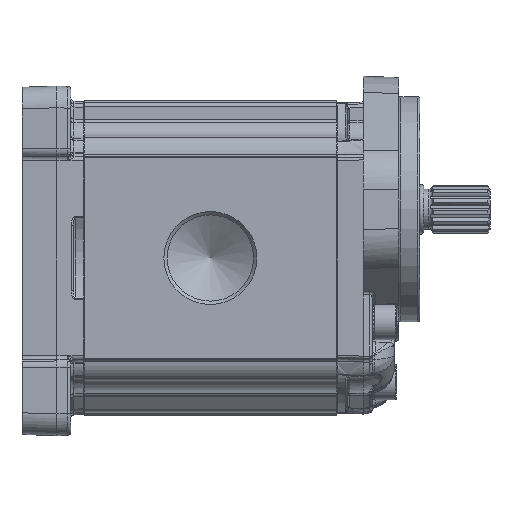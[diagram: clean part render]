
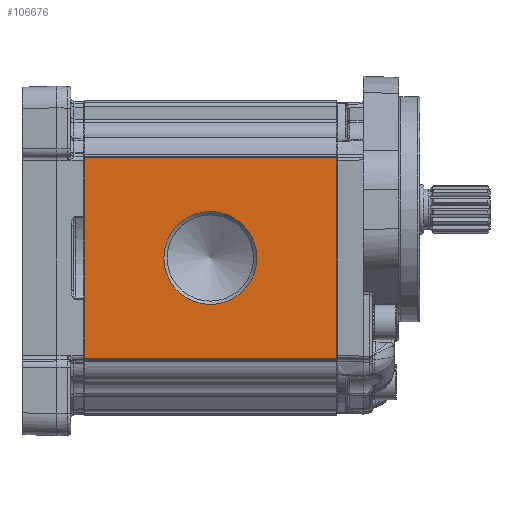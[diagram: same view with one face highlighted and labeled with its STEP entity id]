
A CAD part, left-side view. The second image highlights one B-rep face of the part: STEP entity #106676.
In plain terms, the highlighted planar face has unit normal (-1, 0, 0) as drawn and (1, 0, 0) by its records, which use the part's own axes.
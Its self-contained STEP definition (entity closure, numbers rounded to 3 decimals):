
#5983=PLANE('',#112571);
#8772=LINE('',#204394,#13066);
#8783=LINE('',#204478,#13077);
#8829=LINE('',#204628,#13123);
#8830=LINE('',#204629,#13124);
#13066=VECTOR('',#126159,1000.);
#13077=VECTOR('',#126234,1000.);
#13123=VECTOR('',#126396,1000.);
#13124=VECTOR('',#126397,1000.);
#28307=ORIENTED_EDGE('',*,*,#46707,.T.);
#28308=ORIENTED_EDGE('',*,*,#46586,.F.);
#28309=ORIENTED_EDGE('',*,*,#46708,.T.);
#28310=ORIENTED_EDGE('',*,*,#46628,.F.);
#28311=ORIENTED_EDGE('',*,*,#46709,.T.);
#46586=EDGE_CURVE('',#56668,#56669,#8772,.T.);
#46628=EDGE_CURVE('',#56710,#56711,#8783,.T.);
#46707=EDGE_CURVE('',#56755,#56755,#62564,.F.);
#46708=EDGE_CURVE('',#56668,#56711,#8829,.F.);
#46709=EDGE_CURVE('',#56710,#56669,#8830,.F.);
#56668=VERTEX_POINT('',#204393);
#56669=VERTEX_POINT('',#204395);
#56710=VERTEX_POINT('',#204479);
#56711=VERTEX_POINT('',#204480);
#56755=VERTEX_POINT('',#204627);
#62564=CIRCLE('',#112572,20.976);
#66950=EDGE_LOOP('',(#28307));
#66951=EDGE_LOOP('',(#28308,#28309,#28310,#28311));
#71627=FACE_BOUND('',#66950,.T.);
#71628=FACE_BOUND('',#66951,.T.);
#106676=ADVANCED_FACE('',(#71627,#71628),#5983,.T.);
#112571=AXIS2_PLACEMENT_3D('',#204625,#126392,#126393);
#112572=AXIS2_PLACEMENT_3D('',#204626,#126394,#126395);
#126159=DIRECTION('',(0.,0.,-1.));
#126234=DIRECTION('',(0.,0.,1.));
#126392=DIRECTION('',(1.,0.,0.));
#126393=DIRECTION('',(0.,0.,1.));
#126394=DIRECTION('',(1.,0.,0.));
#126395=DIRECTION('',(0.,0.,1.));
#126396=DIRECTION('',(0.,1.,0.));
#126397=DIRECTION('',(0.,-1.,0.));
#204393=CARTESIAN_POINT('',(57.5,114.,45.5));
#204394=CARTESIAN_POINT('',(57.5,114.,91.388));
#204395=CARTESIAN_POINT('',(57.5,114.,-45.5));
#204478=CARTESIAN_POINT('',(57.5,0.,-44.978));
#204479=CARTESIAN_POINT('',(57.5,0.,-45.5));
#204480=CARTESIAN_POINT('',(57.5,0.,45.5));
#204625=CARTESIAN_POINT('',(57.5,-126.279,91.388));
#204626=CARTESIAN_POINT('',(57.5,57.,0.));
#204627=CARTESIAN_POINT('',(57.5,57.,20.976));
#204628=CARTESIAN_POINT('',(57.5,-126.279,45.5));
#204629=CARTESIAN_POINT('',(57.5,-126.279,-45.5));
